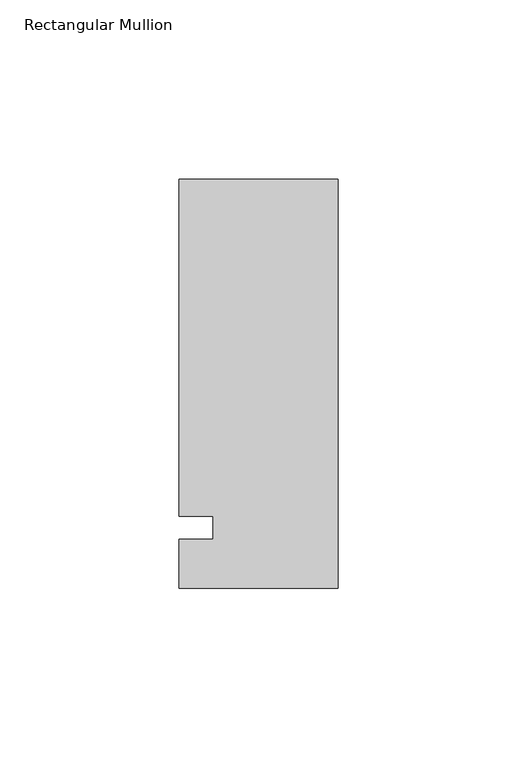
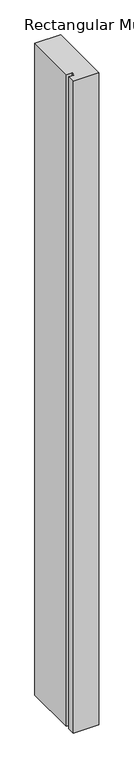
"""IFC4 building model written with IfcOpenShell, lengths in millimetres: member geometry, Rectangular Mullion : Kawneer-TRIFAB_VG_450_BACK_SB_Sill."""

import ifcopenshell
import ifcopenshell.guid

model = None  # the IFC model being written
_history = None  # IfcOwnerHistory: only IFC2X3 demands one
_inside = {}  # id of a spatial element -> (the spatial element, [elements in it])
_under = {}  # id of a project, library or spatial element -> (it, [spatial elements below it])
_declared = {}  # id of a project -> (the project, [libraries it declares])
_typed = {}  # id of a type object -> (the type object, [elements of that type])
_made_of = {}  # id of a material, layer set ... -> (it, [elements and type objects made of it])


def new_model(schema):
    """Start an empty IFC model of exactly this schema.

    Asked for "IFC4X3", IfcOpenShell would pick the latest addendum, in which some entities
    have other attributes; the version numbers below select the first issue.
    IFC2X3 requires an IfcOwnerHistory on every rooted entity: one is made here for all.
    """
    global model, _history
    if schema == "IFC4X3":
        model = ifcopenshell.file(schema_version=(4, 3, 0, 0))
    else:
        model = ifcopenshell.file(schema=schema)
    _inside.clear()
    _under.clear()
    _declared.clear()
    _typed.clear()
    _made_of.clear()
    _history = None
    if model.schema == "IFC2X3":
        org = make("IfcOrganization", Name="unknown")
        user = make(
            "IfcPersonAndOrganization",
            ThePerson=make("IfcPerson", FamilyName="unknown"),
            TheOrganization=org,
        )
        app = make(
            "IfcApplication",
            ApplicationDeveloper=org,
            Version="unknown",
            ApplicationFullName="unknown",
            ApplicationIdentifier="unknown",
        )
        _history = make(
            "IfcOwnerHistory",
            OwningUser=user,
            OwningApplication=app,
            ChangeAction="ADDED",
            CreationDate=0,
        )
    return model


def make(cls, **values):
    """One entity of the class cls with the attributes given. An attribute that is None is left unset."""
    return model.create_entity(
        cls, **{name: value for name, value in values.items() if value is not None}
    )


def rooted(cls, **values):
    """An entity with a GlobalId (a new one), such as an element, a storey or a relation."""
    return make(cls, GlobalId=ifcopenshell.guid.new(), OwnerHistory=_history, **values)


def si_unit(unit_type, name, prefix=None):
    """IfcSIUnit, for example si_unit("LENGTHUNIT", "METRE", prefix="MILLI")."""
    return make("IfcSIUnit", UnitType=unit_type, Prefix=prefix, Name=name)


def assignment(units):
    """IfcUnitAssignment: the units of a project."""
    return None if units is None else make("IfcUnitAssignment", Units=units)


def point(xyz):
    """IfcCartesianPoint."""
    return None if xyz is None else make("IfcCartesianPoint", Coordinates=xyz)


def direction(xyz):
    """IfcDirection."""
    return None if xyz is None else make("IfcDirection", DirectionRatios=xyz)


def frame(location, z_axis=None, x_axis=None):
    """IfcAxis2Placement3D, a coordinate frame: its origin and axes. An axis left out is left unset."""
    return make(
        "IfcAxis2Placement3D",
        Location=point(location),
        Axis=direction(z_axis),
        RefDirection=direction(x_axis),
    )


def origin():
    """The frame at (0, 0, 0) with its axes left unset."""
    return frame((0.0, 0.0, 0.0))


def place(relative_to, where):
    """IfcLocalPlacement: puts the frame where relative to a parent placement (None: the world)."""
    return make(
        "IfcLocalPlacement", PlacementRelTo=relative_to, RelativePlacement=where
    )


def context(
    kind, dimensions, precision=None, world=None, true_north=None, identifier=None
):
    """IfcGeometricRepresentationContext, for example the 3D "Model" context."""
    return make(
        "IfcGeometricRepresentationContext",
        ContextIdentifier=identifier,
        ContextType=kind,
        CoordinateSpaceDimension=dimensions,
        Precision=precision,
        WorldCoordinateSystem=world,
        TrueNorth=true_north,
    )


def project(units=None, contexts=None):
    """IfcProject with its units and contexts."""
    return rooted(
        "IfcProject",
        Name="project",
        RepresentationContexts=contexts,
        UnitsInContext=assignment(units),
    )


def spatial(cls, under=None, at=None, **own):
    """A site, building, storey or space (cls), placed at a placement, below another one or the project."""
    s = rooted(cls, ObjectPlacement=at, **own)
    if under is not None:
        _under.setdefault(under.id(), (under, []))[1].append(s)
    return s


def polyline(points):
    """IfcPolyline through the points."""
    return make("IfcPolyline", Points=[point(p) for p in points])


def outline(outer, holes=None, kind="AREA"):
    """IfcArbitraryClosedProfileDef: a profile drawn as a closed curve; with holes, ...WithVoids."""
    if holes is None:
        return make("IfcArbitraryClosedProfileDef", ProfileType=kind, OuterCurve=outer)
    return make(
        "IfcArbitraryProfileDefWithVoids",
        ProfileType=kind,
        OuterCurve=outer,
        InnerCurves=holes,
    )


def extrude(swept, where, along, depth):
    """IfcExtrudedAreaSolid: the profile swept, set in the frame where, extruded along a direction by depth."""
    return make(
        "IfcExtrudedAreaSolid",
        SweptArea=swept,
        Position=where,
        ExtrudedDirection=direction(along),
        Depth=depth,
    )


def shape(context_of_items, identifier, shape_type, items):
    """IfcShapeRepresentation: the items that make up one representation, for example the "Body"."""
    return make(
        "IfcShapeRepresentation",
        ContextOfItems=context_of_items,
        RepresentationIdentifier=identifier,
        RepresentationType=shape_type,
        Items=items,
    )


def source(mapping_origin, context_of_items, identifier, shape_type, items):
    """IfcRepresentationMap: a shape defined once, which mapped items show again and again."""
    return make(
        "IfcRepresentationMap",
        MappingOrigin=mapping_origin,
        MappedRepresentation=shape(context_of_items, identifier, shape_type, items),
    )


def transform(
    local_origin,
    x_axis=None,
    y_axis=None,
    z_axis=None,
    scale=None,
    scale2=None,
    scale3=None,
    uniform=True,
):
    """IfcCartesianTransformationOperator3D, or its non-uniform kind. x_axis, y_axis, z_axis: its Axis1, 2, 3."""
    if uniform:
        return make(
            "IfcCartesianTransformationOperator3D",
            Axis1=direction(x_axis),
            Axis2=direction(y_axis),
            LocalOrigin=point(local_origin),
            Scale=scale,
            Axis3=direction(z_axis),
        )
    return make(
        "IfcCartesianTransformationOperator3DnonUniform",
        Axis1=direction(x_axis),
        Axis2=direction(y_axis),
        LocalOrigin=point(local_origin),
        Scale=scale,
        Axis3=direction(z_axis),
        Scale2=scale2,
        Scale3=scale3,
    )


def mapped(mapping_source, mapping_target):
    """IfcMappedItem: shows the shape of a source again, moved by a transform."""
    return make(
        "IfcMappedItem", MappingSource=mapping_source, MappingTarget=mapping_target
    )


def made_of(thing, what):
    """Note that an element or type object is made of a material, layer set ...; save() writes the relation."""
    if what is not None:
        _made_of.setdefault(what.id(), (what, []))[1].append(thing)
    return thing


def element(
    cls,
    number,
    at=None,
    inside=None,
    cuts=None,
    type_object=None,
    material=None,
    context=None,
    identifier="Body",
    shape_type=None,
    held_by="IfcProductDefinitionShape",
    body=None,
    shapes=None,
    **own,
):
    """One element of the class cls, such as IfcWall. Its Tag is "e" and its number.

    at: its placement. inside: the storey or other place that contains it. cuts: it is an
    opening in that element (IfcRelVoidsElement). A single representation is given by context,
    identifier, shape_type and body (its items); several are given by shapes. held_by: the class
    of the entity that holds the representations. save() writes the other relations.
    """
    e = rooted(cls, Tag="e%d" % number, ObjectPlacement=at, **own)
    if body is not None:
        shapes = [shape(context, identifier, shape_type, body)]
    if shapes is not None:
        e.Representation = make(held_by, Representations=shapes)
    if inside is not None:
        _inside.setdefault(inside.id(), (inside, []))[1].append(e)
    if cuts is not None:
        rooted(
            "IfcRelVoidsElement", RelatingBuildingElement=cuts, RelatedOpeningElement=e
        )
    if type_object is not None:
        _typed.setdefault(type_object.id(), (type_object, []))[1].append(e)
    return made_of(e, material)


def aggregate(whole, parts):
    """IfcRelAggregates: a whole, such as a stair, and the parts it consists of."""
    return rooted("IfcRelAggregates", RelatingObject=whole, RelatedObjects=parts)


def save(model, path):
    """Write the relations noted so far, then the file.

    IfcRelAggregates (storeys below a building ...), IfcRelContainedInSpatialStructure (elements
    in a storey), IfcRelDefinesByType, IfcRelAssociatesMaterial and IfcRelDeclares: one each for
    every whole, place, type object, material and project.
    """
    for whole, parts in _under.values():
        aggregate(whole, parts)
    for where, things in _inside.values():
        rooted(
            "IfcRelContainedInSpatialStructure",
            RelatedElements=things,
            RelatingStructure=where,
        )
    for kind, things in _typed.values():
        rooted("IfcRelDefinesByType", RelatedObjects=things, RelatingType=kind)
    for what, things in _made_of.values():
        rooted("IfcRelAssociatesMaterial", RelatedObjects=things, RelatingMaterial=what)
    for by, libraries in _declared.values():
        rooted("IfcRelDeclares", RelatingContext=by, RelatedDefinitions=libraries)
    model.write(path)


def rectangular_mullion_7315190d(model_context):
    return source(origin(), model_context, "Body", "SweptSolid", [
        extrude(outline(polyline([(-44.45, -16.8840492), (-44.45, -3.175), (-34.925, -3.175), (-34.925, 3.175), (-44.45, 3.175), (-44.45, 97.4159508), (0.0, 97.4159508), (0.0, -16.8840492), (-44.45, -16.8840492)])), frame((0.0, 0.0, -1187.45), z_axis=(0.0, 0.0, 1.0), x_axis=(1.0, 0.0, 0.0)), (0.0, 0.0, 1.0), 1187.45),
    ])


if __name__ == "__main__":
    model = new_model("IFC4")
    model_context = context("Model", 3, world=origin())
    ifc_project = project(units=[si_unit("LENGTHUNIT", "METRE", prefix="MILLI")], contexts=[model_context])
    site = spatial("IfcSite", under=ifc_project)
    building = spatial("IfcBuilding", under=site)
    placement = place(None, origin())
    rectangular_mullion_shape = rectangular_mullion_7315190d(model_context)
    element("IfcMember", 1, ObjectType="Rectangular Mullion : Kawneer-TRIFAB_VG_450_BACK_SB_Sill", at=placement, inside=building, context=model_context, shape_type="MappedRepresentation", body=[
        mapped(rectangular_mullion_shape, transform((0.0, 0.0, 0.0), x_axis=(1.0, 0.0, 0.0), y_axis=(0.0, 1.0, 0.0), z_axis=(0.0, 0.0, 1.0))),
    ])
    save(model, "model.ifc")
